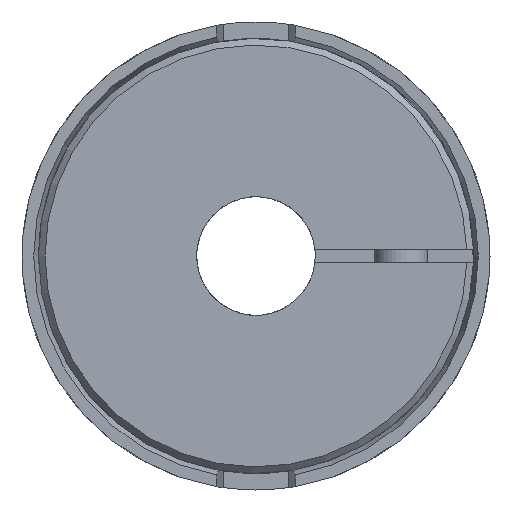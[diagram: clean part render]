
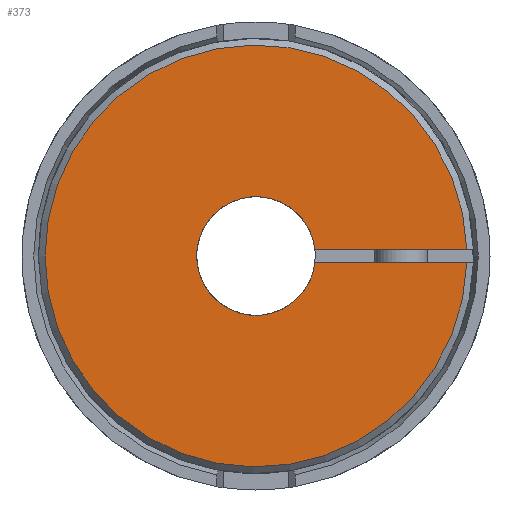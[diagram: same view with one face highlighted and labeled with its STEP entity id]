
A CAD part, left-side view. The second image highlights one B-rep face of the part: STEP entity #373.
In plain terms, the highlighted planar face has unit normal (-1, 0, 0).
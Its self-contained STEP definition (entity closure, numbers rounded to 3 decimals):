
#373 = ADVANCED_FACE( '', ( #826 ), #827, .T. );
#826 = FACE_OUTER_BOUND( '', #1317, .T. );
#827 = PLANE( '', #1318 );
#1317 = EDGE_LOOP( '', ( #2278, #2279, #2280, #2281 ) );
#1318 = AXIS2_PLACEMENT_3D( '', #2282, #2283, #2284 );
#2278 = ORIENTED_EDGE( '', *, *, #2792, .F. );
#2279 = ORIENTED_EDGE( '', *, *, #2858, .T. );
#2280 = ORIENTED_EDGE( '', *, *, #2848, .F. );
#2281 = ORIENTED_EDGE( '', *, *, #2530, .T. );
#2282 = CARTESIAN_POINT( '', ( -58.001, 0., 6. ) );
#2283 = DIRECTION( '', ( -1., 0., 0. ) );
#2284 = DIRECTION( '', ( 0., 0., 1. ) );
#2530 = EDGE_CURVE( '', #2943, #2947, #2949, .T. );
#2792 = EDGE_CURVE( '', #3359, #2947, #3362, .T. );
#2848 = EDGE_CURVE( '', #2943, #3436, #3438, .T. );
#2858 = EDGE_CURVE( '', #3359, #3436, #3450, .F. );
#2943 = VERTEX_POINT( '', #3637 );
#2947 = VERTEX_POINT( '', #3642 );
#2949 = CIRCLE( '', #3645, 32. );
#3359 = VERTEX_POINT( '', #4441 );
#3362 = LINE( '', #4445, #4446 );
#3436 = VERTEX_POINT( '', #4542 );
#3438 = LINE( '', #4545, #4546 );
#3450 = CIRCLE( '', #4559, 9. );
#3637 = CARTESIAN_POINT( '', ( -58.001, -31.984, 1. ) );
#3642 = CARTESIAN_POINT( '', ( -58.001, -31.984, -1. ) );
#3645 = AXIS2_PLACEMENT_3D( '', #4669, #4670, #4671 );
#4441 = CARTESIAN_POINT( '', ( -58.001, -8.944, -1. ) );
#4445 = CARTESIAN_POINT( '', ( -58.001, -4., -1. ) );
#4446 = VECTOR( '', #5075, 1000. );
#4542 = CARTESIAN_POINT( '', ( -58.001, -8.944, 1. ) );
#4545 = CARTESIAN_POINT( '', ( -58.001, -34., 1. ) );
#4546 = VECTOR( '', #5140, 1000. );
#4559 = AXIS2_PLACEMENT_3D( '', #5154, #5155, #5156 );
#4669 = CARTESIAN_POINT( '', ( -58.001, 0., 0. ) );
#4670 = DIRECTION( '', ( -1., 0., 0. ) );
#4671 = DIRECTION( '', ( 0., 0., 1. ) );
#5075 = DIRECTION( '', ( 0., -1., 0. ) );
#5140 = DIRECTION( '', ( 0., 1., 0. ) );
#5154 = CARTESIAN_POINT( '', ( -58.001, 0., 0. ) );
#5155 = DIRECTION( '', ( -1., 0., 0. ) );
#5156 = DIRECTION( '', ( 0., 0., 1. ) );
